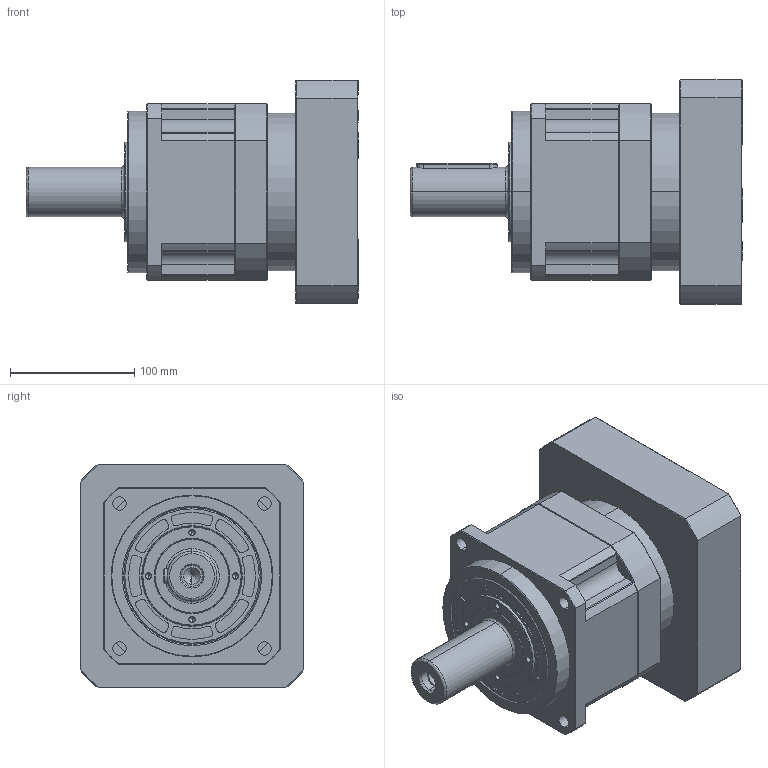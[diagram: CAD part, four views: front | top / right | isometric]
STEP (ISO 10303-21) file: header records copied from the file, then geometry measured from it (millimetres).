
FILE_DESCRIPTION (( 'STEP AP214' ), '1' );
FILE_NAME ('PAB-142-L1-S2-P1 35-114.3-200-M12.STEP', '2023-09-16T02:23:46', ( '微软用户' ), ( '微软中国' ), 'SwSTEP 2.0', 'SolidWorks 2018', '' );
FILE_SCHEMA (( 'AUTOMOTIVE_DESIGN' ));
Length unit declared in the file: millimetre
Products named in the file (10): hexagon socket head cap screws gb_GB_FASTENER_SCREWS_HSHCS M8X30-N_1; 笢潔楊擘APB142俋倛芞_1; hexagon socket head cap screws gb_GB_FASTENER_SCREWS_HSHCS M10X35-N_1; spring lock washers--normal type gb_GB_FASTENER_WASHER_SW 8_1; hex socket set screws with flat point gb_GB_FASTENER_SCREWS_HSFP M20X20-N_1; 標杶D40PAB142-35謂蚚_1; 一级整体太阳轮PAB142-D35外形图; 萇儂楊擘PAB142-114.3-M12-200F180H47_1; 一级齿圈加出轴PAB142外形图_1; PAB-142-L1-S2-P1 35-114.3-200-M12
Assembly tree (27 placements, depth 2):
  PAB-142-L1-S2-P1 35-114.3-200-M12
    一级齿圈加出轴PAB142外形图_1
    一级整体太阳轮PAB142-D35外形图
    笢潔楊擘APB142俋倛芞_1
    spring lock washers--normal type gb_GB_FASTENER_WASHER_SW 8_1  x10
    hexagon socket head cap screws gb_GB_FASTENER_SCREWS_HSHCS M8X30-N_1  x10
    萇儂楊擘PAB142-114.3-M12-200F180H47_1
    標杶D40PAB142-35謂蚚_1
    hexagon socket head cap screws gb_GB_FASTENER_SCREWS_HSHCS M10X35-N_1
    hex socket set screws with flat point gb_GB_FASTENER_SCREWS_HSFP M20X20-N_1
Bounding box: 267 x 180 x 180 mm (x, y, z)
Volume: 3465927.7 mm3; surface area: 341674.9 mm2
Topology: 27 solids, 27 shells, 939 faces, 2284 edges, 1403 vertices
Faces by surface type: plane 375, cylinder 350, cone 186, bspline 28
Entity records: 19492 total; most frequent: CARTESIAN_POINT 3912, DIRECTION 3382, ORIENTED_EDGE 3032, EDGE_CURVE 1516, AXIS2_PLACEMENT_3D 1344, VERTEX_POINT 962, EDGE_LOOP 714, CIRCLE 700
